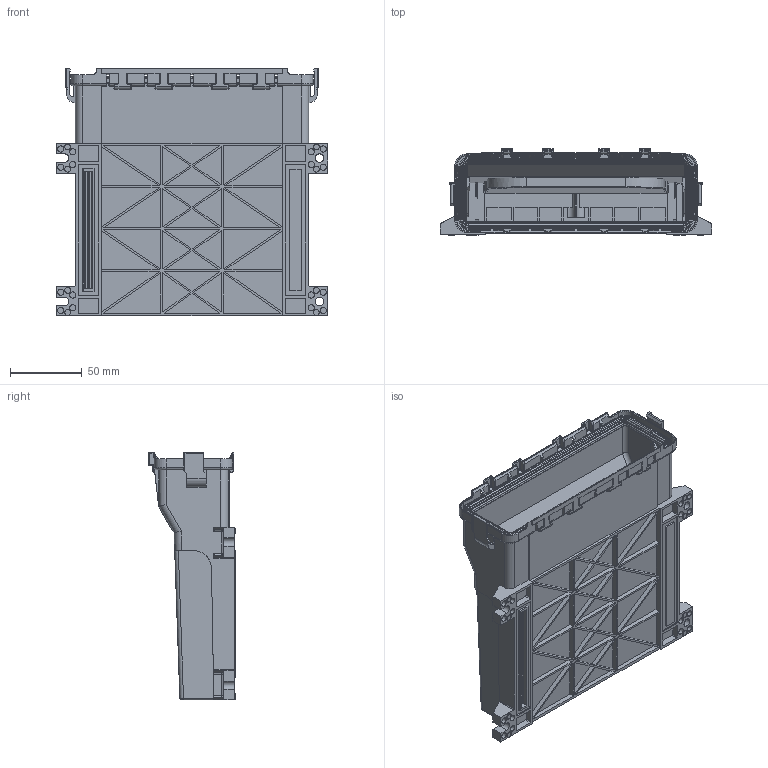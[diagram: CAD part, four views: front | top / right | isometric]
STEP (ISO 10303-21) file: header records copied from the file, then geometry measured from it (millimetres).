
FILE_DESCRIPTION((''),'2;1');
FILE_NAME('5810160032_ICE60_ASM','2008-07-08T',('eake'),(''),'PRO/ENGINEER BY PARAMETRIC TECHNOLOGY CORPORATION, 2005451','PRO/ENGINEER BY PARAMETRIC TECHNOLOGY CORPORATION, 2005451','');
FILE_SCHEMA(('CONFIG_CONTROL_DESIGN'));
Products named in the file (6): 4828770162; 4630899182_SEAL60; 4630899190_HSINK_EX; 4741109047; 5810160031_EPOXY; 5810160032_ICE60_ASM
Assembly tree (6 placements, depth 2):
  5810160032_ICE60_ASM
    4828770162
    4630899182_SEAL60
    4630899190_HSINK_EX
    4741109047
    5810160031_EPOXY  x2
Bounding box: 189.23 x 60.33 x 172.72 mm (x, y, z)
Volume: 244444.9 mm3; surface area: 207042.8 mm2
Topology: 6 solids, 6 shells, 2624 faces, 6357 edges, 3845 vertices
Faces by surface type: plane 1171, cylinder 917, torus 224, bspline 114, sphere 106, extrusion 72, cone 20
Entity records: 89008 total; most frequent: CARTESIAN_POINT 28494, ORIENTED_EDGE 12594, DIRECTION 12524, EDGE_CURVE 6297, AXIS2_PLACEMENT_3D 4302, VECTOR 3920, LINE 3848, VERTEX_POINT 3805
